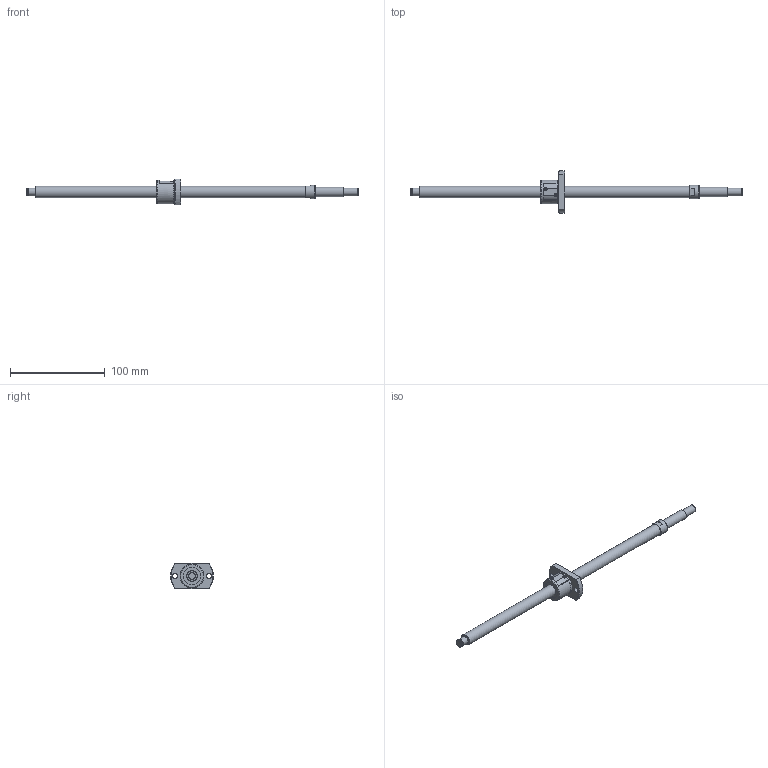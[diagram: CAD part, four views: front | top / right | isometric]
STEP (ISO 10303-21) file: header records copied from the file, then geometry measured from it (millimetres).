
FILE_DESCRIPTION(/* description */ ('STEP AP214'),/* implementation_level */ '2;1');
FILE_NAME(/* name */ 'SG1202-281R350C5B0X(128)',/* time_stamp */ '2026-07-24T15:20:30+02:00',/* author */ ('License CC BY-ND 4.0'),/* organization */ ('CADENAS'),/* preprocessor_version */ 'ST-DEVELOPER v20',/* originating_system */ 'PARTsolutions',/* authorisation */ ' ');
FILE_SCHEMA (('AUTOMOTIVE_DESIGN {1 0 10303 214 3 1 1}'));
Length unit declared in the file: millimetre
Products named in the file (3): SG1202-281R350C5B0X(128); SG1202-281R350C5B_shaft; SG1202 C5_nut
Assembly tree (2 placements, depth 2):
  SG1202-281R350C5B0X(128)
    SG1202-281R350C5B_shaft
    SG1202 C5_nut
Bounding box: 350 x 45 x 27 mm (x, y, z)
Volume: 49775.4 mm3; surface area: 18446.7 mm2
Topology: 2 solids, 2 shells, 79 faces, 188 edges, 123 vertices
Faces by surface type: plane 38, cylinder 26, cone 14, torus 1
Full cylindrical faces by diameter (mm): 5.5 x2, 7.6 x1, 8 x3, 10 x1, 12 x2, 14 x1, 18 x2, 24.5 x1, 25 x1
Entity records: 2197 total; most frequent: CARTESIAN_POINT 408, DIRECTION 374, ORIENTED_EDGE 306, AXIS2_PLACEMENT_3D 157, EDGE_CURVE 153, EDGE_LOOP 120, FACE_BOUND 120, VERTEX_POINT 113
